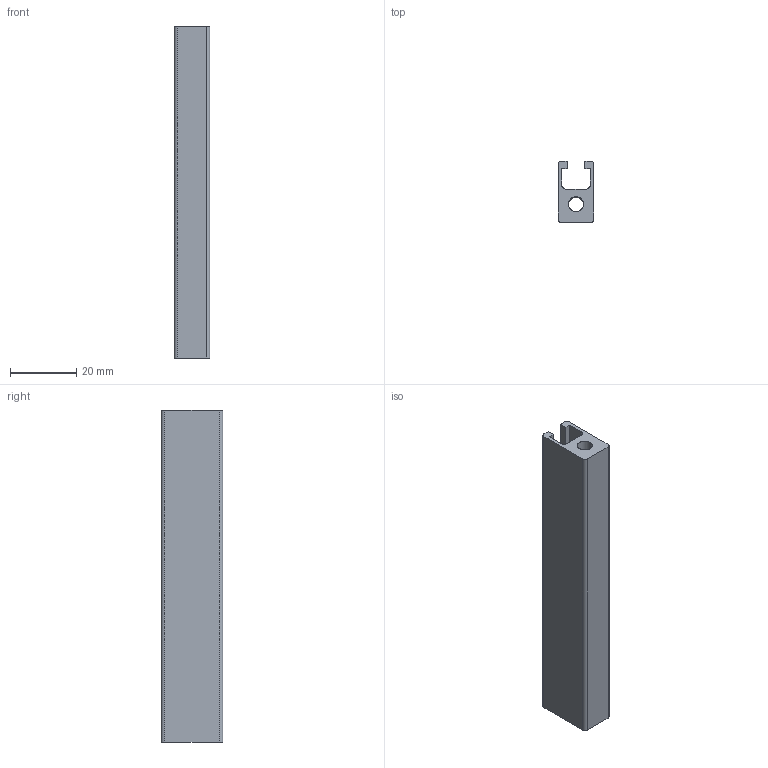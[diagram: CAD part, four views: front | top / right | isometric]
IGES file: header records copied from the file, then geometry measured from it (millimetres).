
Start section: SolidWorks IGES file using analytic representation for surfaces
Global section: file name: C:\Profili\10.8 X 18.5 - 101810.IGS; native system: SolidWorks 2005 by SolidWorks Corporation; preprocessor: SolidWorks 2005 by SolidWorks Corporation; author: Administrator; date: 051024.120823; units: millimetre
Bounding box: 10.8 x 18.5 x 100 mm (x, y, z)
Surface area: 9588.3 mm2 (no closed solid volume)
Topology: 0 solids, 0 shells, 22 faces, 264 edges, 264 vertices
Faces by surface type: bspline 14, revolution 8
